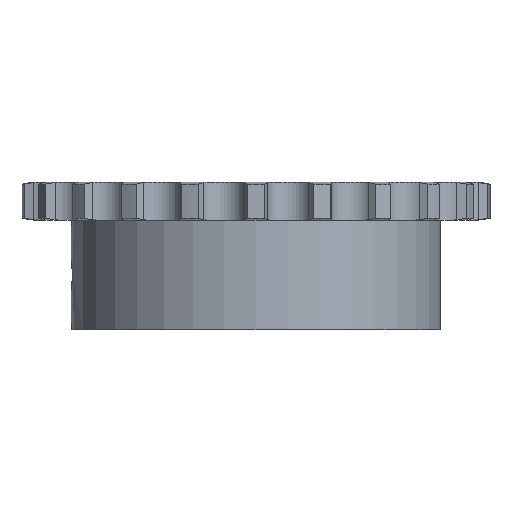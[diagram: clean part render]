
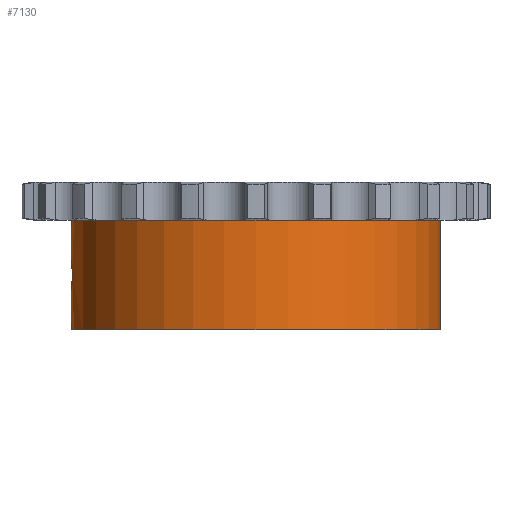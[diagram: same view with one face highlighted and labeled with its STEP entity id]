
A CAD part, front view. The second image highlights one B-rep face of the part: STEP entity #7130.
In plain terms, the highlighted cylindrical face has radius 35 mm (diameter 70 mm), a partial arc.
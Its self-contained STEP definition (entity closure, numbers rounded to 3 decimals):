
#1225=CARTESIAN_POINT('',(0.,0.,-3.6));
#1226=DIRECTION('',(0.,0.,1.));
#1227=DIRECTION('',(-1.,0.,0.));
#1228=AXIS2_PLACEMENT_3D('',#1225,#1226,#1227);
#3561=CARTESIAN_POINT('',(-35.,0.,
-11.));
#3583=DIRECTION('',(0.,0.,1.));
#3584=VECTOR('',#3583,20.8);
#3585=CARTESIAN_POINT('',(35.,0.,-24.4));
#3586=LINE('',#3585,#3584);
#3702=CARTESIAN_POINT('',(-35.,0.,
-11.));
#3703=CARTESIAN_POINT('',(-35.,-0.16,
-11.));
#3704=CARTESIAN_POINT('',(-34.998,-0.477,
-11.024));
#3705=CARTESIAN_POINT('',(-34.988,-0.953,
-11.136));
#3706=CARTESIAN_POINT('',(-34.973,-1.405,
-11.322));
#3707=CARTESIAN_POINT('',(-34.953,-1.818,
-11.574));
#3708=CARTESIAN_POINT('',(-34.932,-2.182,
-11.883));
#3709=CARTESIAN_POINT('',(-34.911,-2.493,
-12.245));
#3710=CARTESIAN_POINT('',(-34.893,-2.744,
-12.653));
#3711=CARTESIAN_POINT('',(-34.878,-2.925,
-13.093));
#3712=CARTESIAN_POINT('',(-34.868,-3.032,
-13.549));
#3713=CARTESIAN_POINT('',(-34.866,-3.055,
-13.85));
#3714=CARTESIAN_POINT('',(-34.866,-3.055,
-14.));
#3719=DIRECTION('',(0.,0.,1.));
#3720=VECTOR('',#3719,7.4);
#3721=CARTESIAN_POINT('',(-35.,0.,
-11.));
#3722=LINE('',#3721,#3720);
#3726=DIRECTION('',(0.,0.,1.));
#3727=VECTOR('',#3726,7.4);
#3728=CARTESIAN_POINT('',(-35.,0.,-24.4));
#3729=LINE('',#3728,#3727);
#3733=CARTESIAN_POINT('',(-34.866,-3.055,
-14.));
#3734=CARTESIAN_POINT('',(-34.866,-3.055,
-14.15));
#3735=CARTESIAN_POINT('',(-34.868,-3.032,
-14.45));
#3736=CARTESIAN_POINT('',(-34.878,-2.925,
-14.906));
#3737=CARTESIAN_POINT('',(-34.892,-2.744,
-15.345));
#3738=CARTESIAN_POINT('',(-34.911,-2.494,
-15.754));
#3739=CARTESIAN_POINT('',(-34.932,-2.182,
-16.117));
#3740=CARTESIAN_POINT('',(-34.953,-1.819,
-16.426));
#3741=CARTESIAN_POINT('',(-34.973,-1.406,
-16.677));
#3742=CARTESIAN_POINT('',(-34.988,-0.954,
-16.863));
#3743=CARTESIAN_POINT('',(-34.998,-0.477,
-16.976));
#3744=CARTESIAN_POINT('',(-35.,-0.16,
-17.));
#3745=CARTESIAN_POINT('',(-35.,0.,
-17.));
#3758=CARTESIAN_POINT('',(0.,0.,-24.4));
#3759=DIRECTION('',(0.,0.,-1.));
#3760=DIRECTION('',(1.,0.,0.));
#3761=AXIS2_PLACEMENT_3D('',#3758,#3759,#3760);
#4151=CARTESIAN_POINT('',(-35.,0.,-24.4));
#4152=CARTESIAN_POINT('',(35.,0.,-24.4));
#4153=VERTEX_POINT('',#4151);
#4154=VERTEX_POINT('',#4152);
#4155=CARTESIAN_POINT('',(35.,0.,-3.6));
#4156=VERTEX_POINT('',#4155);
#4157=CARTESIAN_POINT('',(-35.,0.,-3.6));
#4158=VERTEX_POINT('',#4157);
#4404=VERTEX_POINT('',#3561);
#4407=VERTEX_POINT('',#3714);
#4409=VERTEX_POINT('',#3745);
#7114=CARTESIAN_POINT('',(0.,0.,3.6));
#7115=DIRECTION('',(0.,0.,1.));
#7116=DIRECTION('',(1.,0.,0.));
#7117=AXIS2_PLACEMENT_3D('',#7114,#7115,#7116);
#7118=CYLINDRICAL_SURFACE('',#7117,35.);
#7119=ORIENTED_EDGE('',*,*,#7104,.F.);
#7120=ORIENTED_EDGE('',*,*,#6735,.T.);
#7121=ORIENTED_EDGE('',*,*,#5678,.T.);
#7122=ORIENTED_EDGE('',*,*,#6732,.F.);
#7124=ORIENTED_EDGE('',*,*,#7123,.T.);
#7125=ORIENTED_EDGE('',*,*,#6728,.T.);
#7127=ORIENTED_EDGE('',*,*,#7126,.F.);
#7128=EDGE_LOOP('',(#7119,#7120,#7121,#7122,#7124,#7125,#7127));
#7129=FACE_OUTER_BOUND('',#7128,.F.);
#7130=ADVANCED_FACE('',(#7129),#7118,.T.);
#1229=CIRCLE('',#1228,35.);
#3715=B_SPLINE_CURVE_WITH_KNOTS('',3,(#3702,#3703,#3704,#3705,#3706,#3707,#3708,
#3709,#3710,#3711,#3712,#3713,#3714),.UNSPECIFIED.,.F.,.F.,(4,1,1,1,1,1,1,1,1,1,
4),(0.,0.1,0.2,0.3,0.4,0.5,0.6,0.7,0.8,0.9,1.),
.UNSPECIFIED.);
#3746=B_SPLINE_CURVE_WITH_KNOTS('',3,(#3733,#3734,#3735,#3736,#3737,#3738,#3739,
#3740,#3741,#3742,#3743,#3744,#3745),.UNSPECIFIED.,.F.,.F.,(4,1,1,1,1,1,1,1,1,1,
4),(0.,0.1,0.2,0.3,0.4,0.5,0.6,0.7,0.8,0.9,1.),
.UNSPECIFIED.);
#3762=CIRCLE('',#3761,35.);
#5678=EDGE_CURVE('',#4158,#4156,#1229,.T.);
#6728=EDGE_CURVE('',#4153,#4409,#3729,.T.);
#6732=EDGE_CURVE('',#4154,#4156,#3586,.T.);
#6735=EDGE_CURVE('',#4404,#4158,#3722,.T.);
#7104=EDGE_CURVE('',#4404,#4407,#3715,.T.);
#7123=EDGE_CURVE('',#4154,#4153,#3762,.T.);
#7126=EDGE_CURVE('',#4407,#4409,#3746,.T.);
